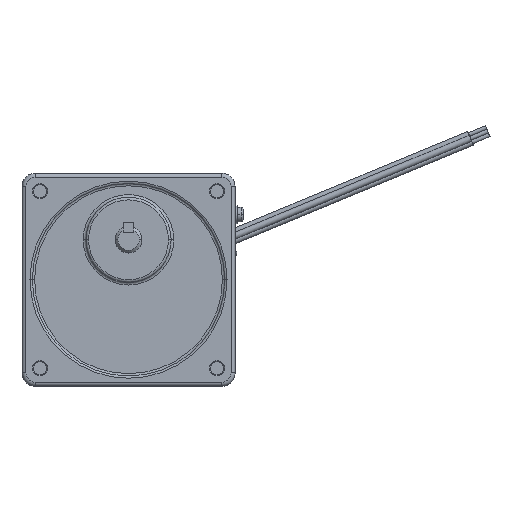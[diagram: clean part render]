
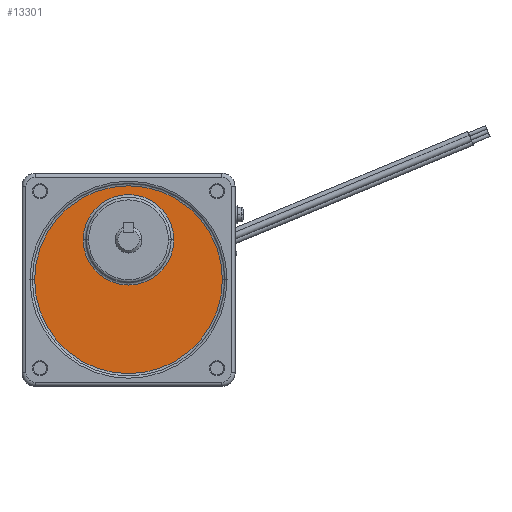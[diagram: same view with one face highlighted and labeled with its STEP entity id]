
A CAD part, top view. The second image highlights one B-rep face of the part: STEP entity #13301.
In plain terms, the highlighted planar face has unit normal (0, 0, 1).
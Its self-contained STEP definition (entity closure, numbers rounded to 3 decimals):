
#139 = CARTESIAN_POINT ( 'NONE',  ( -35.268, 0., -1. ) ) ;
#1744 = CARTESIAN_POINT ( 'NONE',  ( 0., 0., -1. ) ) ;
#1761 = AXIS2_PLACEMENT_3D ( 'NONE', #1744, #1775, #1774 ) ;
#1774 = DIRECTION ( 'NONE',  ( 1., 0., 0. ) ) ;
#1775 = DIRECTION ( 'NONE',  ( 0., 0., 1. ) ) ;
#1802 = PLANE ( 'NONE',  #1761 ) ;
#1984 = FACE_OUTER_BOUND ( 'NONE', #13356, .T. ) ;
#2003 = FACE_BOUND ( 'NONE', #13287, .T. ) ;
#2124 = DIRECTION ( 'NONE',  ( 1., 0., 0. ) ) ;
#2125 = DIRECTION ( 'NONE',  ( 0., 0., 1. ) ) ;
#2126 = CARTESIAN_POINT ( 'NONE',  ( 0., 0., -1. ) ) ;
#2127 = AXIS2_PLACEMENT_3D ( 'NONE', #2126, #2125, #2124 ) ;
#2140 = CIRCLE ( 'NONE', #2127, 35.268 ) ;
#2164 = AXIS2_PLACEMENT_3D ( 'NONE', #2186, #2201, #2230 ) ;
#2186 = CARTESIAN_POINT ( 'NONE',  ( 0., 15., -1. ) ) ;
#2201 = DIRECTION ( 'NONE',  ( 0., 0., -1. ) ) ;
#2207 = CIRCLE ( 'NONE', #2164, 17. ) ;
#2230 = DIRECTION ( 'NONE',  ( 1., 0., 0. ) ) ;
#7602 = VERTEX_POINT ( 'NONE', #17421 ) ;
#7710 = VERTEX_POINT ( 'NONE', #17628 ) ;
#7767 = EDGE_CURVE ( 'NONE', #7710, #7602, #17966, .T. ) ;
#7791 = VERTEX_POINT ( 'NONE', #18018 ) ;
#7864 = EDGE_CURVE ( 'NONE', #8170, #7791, #18297, .T. ) ;
#8170 = VERTEX_POINT ( 'NONE', #139 ) ;
#13287 = EDGE_LOOP ( 'NONE', ( #13298, #18671 ) ) ;
#13298 = ORIENTED_EDGE ( 'NONE', *, *, #7767, .T. ) ;
#13301 = ADVANCED_FACE ( 'NONE', ( #2003, #1984 ), #1802, .T. ) ;
#13352 = ORIENTED_EDGE ( 'NONE', *, *, #13353, .T. ) ;
#13353 = EDGE_CURVE ( 'NONE', #7791, #8170, #2140, .T. ) ;
#13356 = EDGE_LOOP ( 'NONE', ( #13368, #13352 ) ) ;
#13366 = EDGE_CURVE ( 'NONE', #7602, #7710, #2207, .T. ) ;
#13368 = ORIENTED_EDGE ( 'NONE', *, *, #7864, .T. ) ;
#17421 = CARTESIAN_POINT ( 'NONE',  ( -17., 15., -1. ) ) ;
#17628 = CARTESIAN_POINT ( 'NONE',  ( 17., 15., -1. ) ) ;
#17948 = DIRECTION ( 'NONE',  ( 1., 0., 0. ) ) ;
#17949 = DIRECTION ( 'NONE',  ( 0., 0., -1. ) ) ;
#17950 = CARTESIAN_POINT ( 'NONE',  ( 0., 15., -1. ) ) ;
#17957 = AXIS2_PLACEMENT_3D ( 'NONE', #17950, #17949, #17948 ) ;
#17966 = CIRCLE ( 'NONE', #17957, 17. ) ;
#18018 = CARTESIAN_POINT ( 'NONE',  ( 35.268, 0., -1. ) ) ;
#18297 = CIRCLE ( 'NONE', #18326, 35.268 ) ;
#18324 = DIRECTION ( 'NONE',  ( 1., 0., 0. ) ) ;
#18325 = DIRECTION ( 'NONE',  ( 0., 0., 1. ) ) ;
#18326 = AXIS2_PLACEMENT_3D ( 'NONE', #18330, #18325, #18324 ) ;
#18330 = CARTESIAN_POINT ( 'NONE',  ( 0., 0., -1. ) ) ;
#18671 = ORIENTED_EDGE ( 'NONE', *, *, #13366, .T. ) ;
